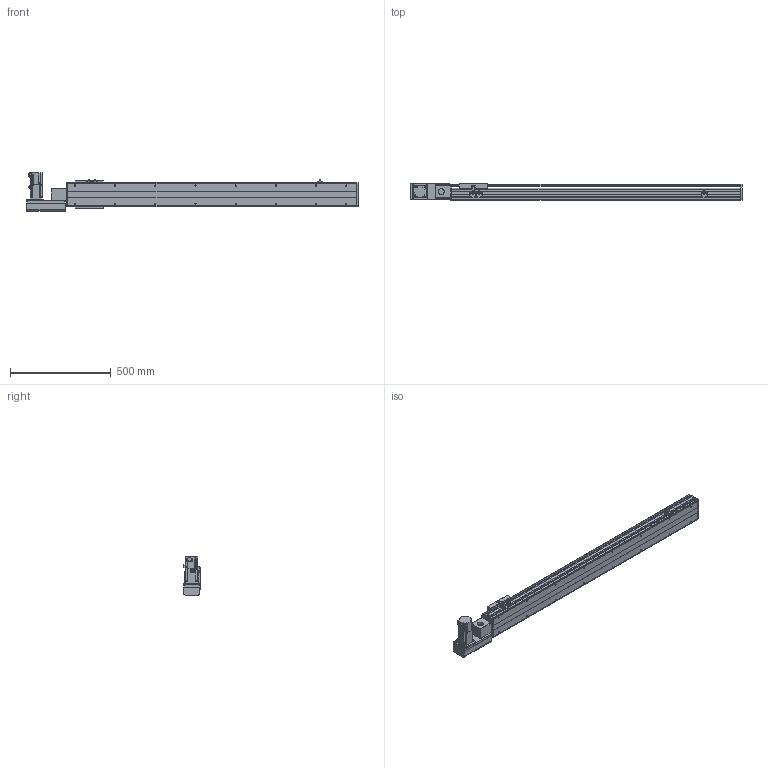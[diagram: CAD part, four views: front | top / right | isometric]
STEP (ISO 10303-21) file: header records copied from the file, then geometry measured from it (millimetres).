
FILE_DESCRIPTION(/* description */ ('STEP AP214'),/* implementation_level */ '2;1');
FILE_NAME(/* name */ 'PBS120-P40-S1150-L-T40-C1-N(0)',/* time_stamp */ '2022-06-05T02:25:47+02:00',/* author */ ('License CC BY-ND 4.0'),/* organization */ ('CADENAS'),/* preprocessor_version */ 'ST-DEVELOPER v18.102',/* originating_system */ 'PARTsolutions',/* authorisation */ ' ');
FILE_SCHEMA (('AUTOMOTIVE_DESIGN {1 0 10303 214 3 1 1}'));
Length unit declared in the file: millimetre
Products named in the file (7): PBS120-P40-S1150-L-T40-C1-N(0); PBS120_sensor; PBS120_plant; PBS120_sliser; T40-p1; PBS120T-L_motors; PBS120-S1150()_body
Assembly tree (8 placements, depth 2):
  PBS120-P40-S1150-L-T40-C1-N(0)
    PBS120_sensor  x3
    PBS120_plant
    PBS120_sliser
    T40-p1
    PBS120T-L_motors
    PBS120-S1150()_body
Bounding box: 1651 x 83 x 189.7 mm (x, y, z)
Volume: 6449538.8 mm3; surface area: 1271462.5 mm2
Topology: 8 solids, 8 shells, 828 faces, 2156 edges, 1387 vertices
Faces by surface type: plane 549, cylinder 229, cone 48, torus 2
Full cylindrical faces by diameter (mm): 2.459 x6, 3.242 x4, 4 x2, 4.134 x4, 4.5 x10, 4.917 x20, 5.5 x11, 6 x2, 6.6 x1, 7 x2, 8.5 x4, 9 x4, 12 x1, 14 x1, 30 x2, 40 x1, 50 x2
Entity records: 21594 total; most frequent: DIRECTION 3740, CARTESIAN_POINT 3677, ORIENTED_EDGE 3502, EDGE_CURVE 1751, AXIS2_PLACEMENT_3D 1256, LINE 1228, VECTOR 1228, VERTEX_POINT 1193
